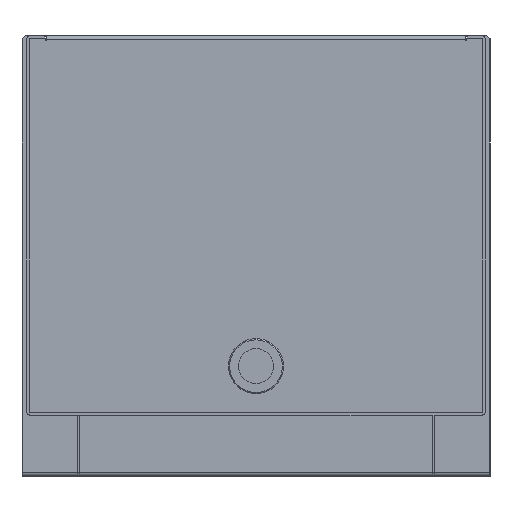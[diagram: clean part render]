
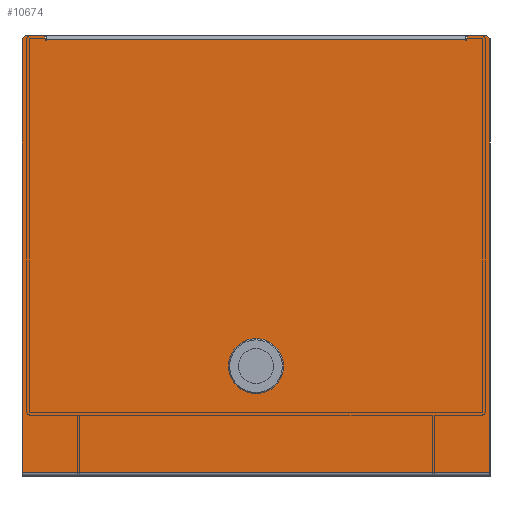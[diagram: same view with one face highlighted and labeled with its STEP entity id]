
A CAD part, left-side view. The second image highlights one B-rep face of the part: STEP entity #10674.
In plain terms, the highlighted planar face has unit normal (-1, 0, 0).
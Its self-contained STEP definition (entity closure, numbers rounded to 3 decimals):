
#36 = CARTESIAN_POINT ( 'NONE',  ( -630., -342.5, 614. ) ) ;
#269 = ORIENTED_EDGE ( 'NONE', *, *, #13683, .F. ) ;
#291 = LINE ( 'NONE', #896, #3497 ) ;
#384 = LINE ( 'NONE', #1676, #7231 ) ;
#491 = EDGE_CURVE ( 'NONE', #7056, #16285, #672, .T. ) ;
#650 = CARTESIAN_POINT ( 'NONE',  ( -630., 0., 612. ) ) ;
#672 = LINE ( 'NONE', #17336, #16574 ) ;
#684 = ORIENTED_EDGE ( 'NONE', *, *, #6615, .F. ) ;
#727 = EDGE_CURVE ( 'NONE', #12358, #2796, #8772, .T. ) ;
#779 = VECTOR ( 'NONE', #10208, 1000. ) ;
#888 = VERTEX_POINT ( 'NONE', #14887 ) ;
#896 = CARTESIAN_POINT ( 'NONE',  ( -630., 342.5, 0. ) ) ;
#993 = VERTEX_POINT ( 'NONE', #13998 ) ;
#1175 = DIRECTION ( 'NONE',  ( 0., 1., 0. ) ) ;
#1188 = VECTOR ( 'NONE', #16304, 1000. ) ;
#1366 = CARTESIAN_POINT ( 'NONE',  ( -630., 382.5, -94. ) ) ;
#1533 = DIRECTION ( 'NONE',  ( -1., 0., 0. ) ) ;
#1620 = LINE ( 'NONE', #1366, #1188 ) ;
#1676 = CARTESIAN_POINT ( 'NONE',  ( -630., -342.5, 0. ) ) ;
#1789 = CARTESIAN_POINT ( 'NONE',  ( -630., 382.5, 615. ) ) ;
#1853 = EDGE_CURVE ( 'NONE', #11960, #7056, #13999, .T. ) ;
#1872 = CARTESIAN_POINT ( 'NONE',  ( -630., 0., 80. ) ) ;
#1965 = DIRECTION ( 'NONE',  ( 0., 1., 0. ) ) ;
#2255 = DIRECTION ( 'NONE',  ( 0., 0., -1. ) ) ;
#2353 = FACE_BOUND ( 'NONE', #3679, .T. ) ;
#2460 = DIRECTION ( 'NONE',  ( 0., 0.707, 0.707 ) ) ;
#2796 = VERTEX_POINT ( 'NONE', #17547 ) ;
#2994 = CARTESIAN_POINT ( 'NONE',  ( -630., -382.5, 615. ) ) ;
#3042 = DIRECTION ( 'NONE',  ( 0., 0., -1. ) ) ;
#3048 = CARTESIAN_POINT ( 'NONE',  ( -630., 382.5, -94. ) ) ;
#3169 = VECTOR ( 'NONE', #7282, 1000. ) ;
#3247 = EDGE_CURVE ( 'NONE', #8490, #13631, #10987, .T. ) ;
#3251 = DIRECTION ( 'NONE',  ( 0., 0., 1. ) ) ;
#3497 = VECTOR ( 'NONE', #15834, 1000. ) ;
#3567 = VECTOR ( 'NONE', #11310, 1000. ) ;
#3627 = VECTOR ( 'NONE', #1965, 1000. ) ;
#3664 = EDGE_CURVE ( 'NONE', #13631, #888, #4849, .T. ) ;
#3679 = EDGE_LOOP ( 'NONE', ( #269, #17332 ) ) ;
#3736 = VECTOR ( 'NONE', #6686, 1000. ) ;
#3863 = DIRECTION ( 'NONE',  ( 0., 0., 1. ) ) ;
#3895 = EDGE_CURVE ( 'NONE', #993, #2796, #8675, .T. ) ;
#3987 = LINE ( 'NONE', #4466, #3567 ) ;
#4112 = VERTEX_POINT ( 'NONE', #12455 ) ;
#4466 = CARTESIAN_POINT ( 'NONE',  ( -630., 0., 612. ) ) ;
#4797 = ORIENTED_EDGE ( 'NONE', *, *, #11189, .T. ) ;
#4849 = LINE ( 'NONE', #650, #779 ) ;
#4944 = CARTESIAN_POINT ( 'NONE',  ( -630., 0., 0. ) ) ;
#5043 = EDGE_CURVE ( 'NONE', #888, #16355, #291, .T. ) ;
#5253 = EDGE_CURVE ( 'NONE', #12117, #16355, #14100, .T. ) ;
#5726 = ORIENTED_EDGE ( 'NONE', *, *, #10567, .T. ) ;
#5827 = ORIENTED_EDGE ( 'NONE', *, *, #8022, .T. ) ;
#6051 = CARTESIAN_POINT ( 'NONE',  ( -630., -344.5, 0. ) ) ;
#6089 = CARTESIAN_POINT ( 'NONE',  ( -630., 382.5, 620. ) ) ;
#6194 = CARTESIAN_POINT ( 'NONE',  ( -630., -344.5, 612. ) ) ;
#6521 = CARTESIAN_POINT ( 'NONE',  ( -630., -382.5, 615. ) ) ;
#6615 = EDGE_CURVE ( 'NONE', #12117, #17354, #384, .T. ) ;
#6622 = AXIS2_PLACEMENT_3D ( 'NONE', #9711, #1533, #11057 ) ;
#6686 = DIRECTION ( 'NONE',  ( 0., 0., -1. ) ) ;
#6934 = ORIENTED_EDGE ( 'NONE', *, *, #5253, .T. ) ;
#7056 = VERTEX_POINT ( 'NONE', #1789 ) ;
#7070 = EDGE_CURVE ( 'NONE', #17354, #12358, #3987, .T. ) ;
#7231 = VECTOR ( 'NONE', #3042, 1000. ) ;
#7282 = DIRECTION ( 'NONE',  ( 0., 0.707, -0.707 ) ) ;
#7353 = VECTOR ( 'NONE', #9593, 1000. ) ;
#7377 = CIRCLE ( 'NONE', #7448, 32.5 ) ;
#7448 = AXIS2_PLACEMENT_3D ( 'NONE', #1872, #11400, #3251 ) ;
#7617 = CARTESIAN_POINT ( 'NONE',  ( -630., -382.5, 620. ) ) ;
#7703 = LINE ( 'NONE', #6089, #3627 ) ;
#7912 = DIRECTION ( 'NONE',  ( 0., 0., -1. ) ) ;
#8022 = EDGE_CURVE ( 'NONE', #17357, #993, #14973, .T. ) ;
#8259 = ORIENTED_EDGE ( 'NONE', *, *, #7070, .F. ) ;
#8490 = VERTEX_POINT ( 'NONE', #10683 ) ;
#8675 = LINE ( 'NONE', #17404, #14565 ) ;
#8688 = CARTESIAN_POINT ( 'NONE',  ( -630., -382.5, -94. ) ) ;
#8734 = ORIENTED_EDGE ( 'NONE', *, *, #491, .T. ) ;
#8772 = LINE ( 'NONE', #6051, #15509 ) ;
#9593 = DIRECTION ( 'NONE',  ( 0., 1., 0. ) ) ;
#9594 = ORIENTED_EDGE ( 'NONE', *, *, #3895, .T. ) ;
#9711 = CARTESIAN_POINT ( 'NONE',  ( -630., 0., 80. ) ) ;
#10208 = DIRECTION ( 'NONE',  ( 0., -1., 0. ) ) ;
#10233 = VERTEX_POINT ( 'NONE', #10899 ) ;
#10431 = DIRECTION ( 'NONE',  ( 1., 0., 0. ) ) ;
#10567 = EDGE_CURVE ( 'NONE', #8490, #11960, #7703, .T. ) ;
#10645 = EDGE_LOOP ( 'NONE', ( #5726, #16297, #8734, #17508, #4797, #5827, #9594, #12783, #8259, #684, #6934, #17179, #14517, #15976 ) ) ;
#10653 = VECTOR ( 'NONE', #15680, 1000. ) ;
#10674 = ADVANCED_FACE ( 'NONE', ( #2353, #12338 ), #14408, .F. ) ;
#10683 = CARTESIAN_POINT ( 'NONE',  ( -630., 344.5, 620. ) ) ;
#10899 = CARTESIAN_POINT ( 'NONE',  ( -630., 0., 112.5 ) ) ;
#10987 = LINE ( 'NONE', #17481, #3736 ) ;
#11008 = CARTESIAN_POINT ( 'NONE',  ( -630., -342.5, 614. ) ) ;
#11057 = DIRECTION ( 'NONE',  ( 0., 0., 1. ) ) ;
#11189 = EDGE_CURVE ( 'NONE', #15736, #17357, #17367, .T. ) ;
#11225 = CARTESIAN_POINT ( 'NONE',  ( -630., 344.5, 612. ) ) ;
#11310 = DIRECTION ( 'NONE',  ( 0., -1., 0. ) ) ;
#11400 = DIRECTION ( 'NONE',  ( -1., 0., 0. ) ) ;
#11420 = VECTOR ( 'NONE', #2460, 1000. ) ;
#11960 = VERTEX_POINT ( 'NONE', #17245 ) ;
#12117 = VERTEX_POINT ( 'NONE', #11008 ) ;
#12338 = FACE_OUTER_BOUND ( 'NONE', #10645, .T. ) ;
#12358 = VERTEX_POINT ( 'NONE', #6194 ) ;
#12455 = CARTESIAN_POINT ( 'NONE',  ( -630., 0., 47.5 ) ) ;
#12499 = CARTESIAN_POINT ( 'NONE',  ( -630., -342.5, 612. ) ) ;
#12783 = ORIENTED_EDGE ( 'NONE', *, *, #727, .F. ) ;
#12964 = EDGE_CURVE ( 'NONE', #4112, #10233, #13305, .T. ) ;
#13305 = CIRCLE ( 'NONE', #6622, 32.5 ) ;
#13409 = AXIS2_PLACEMENT_3D ( 'NONE', #4944, #10431, #2255 ) ;
#13631 = VERTEX_POINT ( 'NONE', #11225 ) ;
#13683 = EDGE_CURVE ( 'NONE', #10233, #4112, #7377, .T. ) ;
#13998 = CARTESIAN_POINT ( 'NONE',  ( -630., -377.5, 620. ) ) ;
#13999 = LINE ( 'NONE', #16724, #3169 ) ;
#14100 = LINE ( 'NONE', #36, #7353 ) ;
#14408 = PLANE ( 'NONE',  #13409 ) ;
#14517 = ORIENTED_EDGE ( 'NONE', *, *, #3664, .F. ) ;
#14565 = VECTOR ( 'NONE', #1175, 1000. ) ;
#14887 = CARTESIAN_POINT ( 'NONE',  ( -630., 342.5, 612. ) ) ;
#14929 = EDGE_CURVE ( 'NONE', #16285, #15736, #1620, .T. ) ;
#14973 = LINE ( 'NONE', #6521, #11420 ) ;
#15509 = VECTOR ( 'NONE', #3863, 1000. ) ;
#15680 = DIRECTION ( 'NONE',  ( 0., 0., 1. ) ) ;
#15736 = VERTEX_POINT ( 'NONE', #8688 ) ;
#15834 = DIRECTION ( 'NONE',  ( 0., 0., 1. ) ) ;
#15976 = ORIENTED_EDGE ( 'NONE', *, *, #3247, .F. ) ;
#16285 = VERTEX_POINT ( 'NONE', #3048 ) ;
#16297 = ORIENTED_EDGE ( 'NONE', *, *, #1853, .T. ) ;
#16304 = DIRECTION ( 'NONE',  ( 0., -1., 0. ) ) ;
#16355 = VERTEX_POINT ( 'NONE', #16799 ) ;
#16574 = VECTOR ( 'NONE', #7912, 1000. ) ;
#16724 = CARTESIAN_POINT ( 'NONE',  ( -630., 377.5, 620. ) ) ;
#16799 = CARTESIAN_POINT ( 'NONE',  ( -630., 342.5, 614. ) ) ;
#17179 = ORIENTED_EDGE ( 'NONE', *, *, #5043, .F. ) ;
#17245 = CARTESIAN_POINT ( 'NONE',  ( -630., 377.5, 620. ) ) ;
#17332 = ORIENTED_EDGE ( 'NONE', *, *, #12964, .F. ) ;
#17336 = CARTESIAN_POINT ( 'NONE',  ( -630., 382.5, 620. ) ) ;
#17354 = VERTEX_POINT ( 'NONE', #12499 ) ;
#17357 = VERTEX_POINT ( 'NONE', #2994 ) ;
#17367 = LINE ( 'NONE', #7617, #10653 ) ;
#17404 = CARTESIAN_POINT ( 'NONE',  ( -630., 382.5, 620. ) ) ;
#17481 = CARTESIAN_POINT ( 'NONE',  ( -630., 344.5, 0. ) ) ;
#17508 = ORIENTED_EDGE ( 'NONE', *, *, #14929, .T. ) ;
#17547 = CARTESIAN_POINT ( 'NONE',  ( -630., -344.5, 620. ) ) ;
